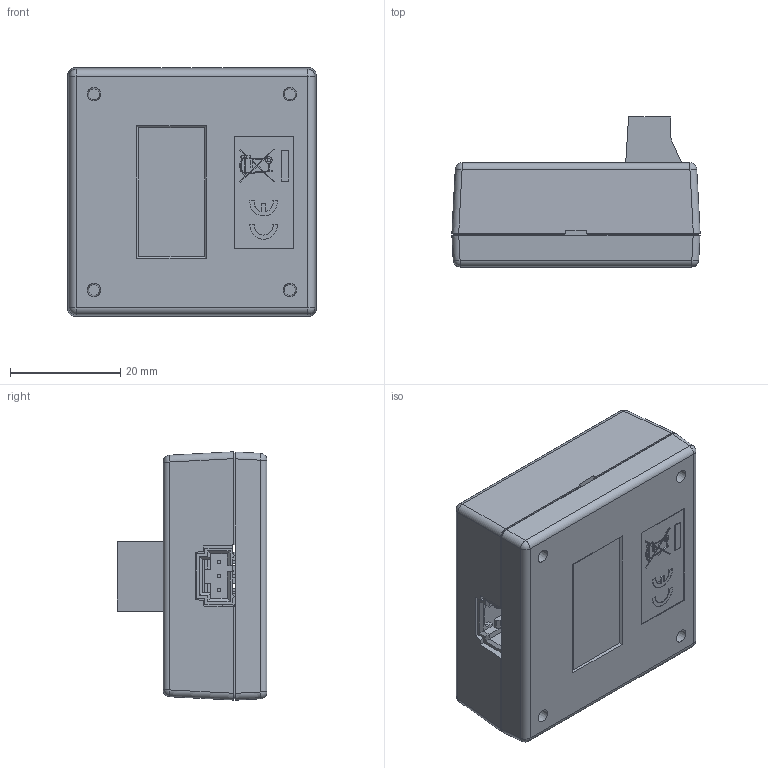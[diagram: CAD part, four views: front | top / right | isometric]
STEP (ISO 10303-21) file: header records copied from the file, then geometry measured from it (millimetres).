
FILE_DESCRIPTION(/* description */ ('Alibre Inc.'),/* implementation_level */ '2;1');
FILE_NAME(/* name */ 'export0',/* time_stamp */ '2018-08-10T08:59:31-06:00',/* author */ (''),/* organization */ (''),/* preprocessor_version */ 'ST-DEVELOPER v17',/* originating_system */ 'Alibre',/* authorisation */ '');
FILE_SCHEMA (('CONFIG_CONTROL_DESIGN'));
Length unit declared in the file: centimetre
Products named in the file (52): ID_1; ID_2; ID_3; ID_4; ID_5; ID_6; ID_7; ID_8; ID_9; ID_10; ID_11; ID_12; ID_13; ID_14; ID_15; ID_16; ID_17; ID_18; ID_19; ID_20
Bounding box: 45.11 x 27.22 x 45.12 mm (x, y, z)
Volume: 15876.4 mm3; surface area: 20299.8 mm2
Topology: 39 solids, 39 shells, 1206 faces, 3193 edges, 2087 vertices
Faces by surface type: plane 934, cylinder 221, bspline 31, cone 12, sphere 8
Full cylindrical faces by diameter (mm): 0.6 x1, 0.965 x3, 1.5 x2, 3.099 x4, 3.175 x4
Entity records: 39676 total; most frequent: CARTESIAN_POINT 8787, ORIENTED_EDGE 5676, DIRECTION 4184, EDGE_CURVE 2838, VECTOR 2217, LINE 2217, VERTEX_POINT 1867, AXIS2_PLACEMENT_3D 1356
